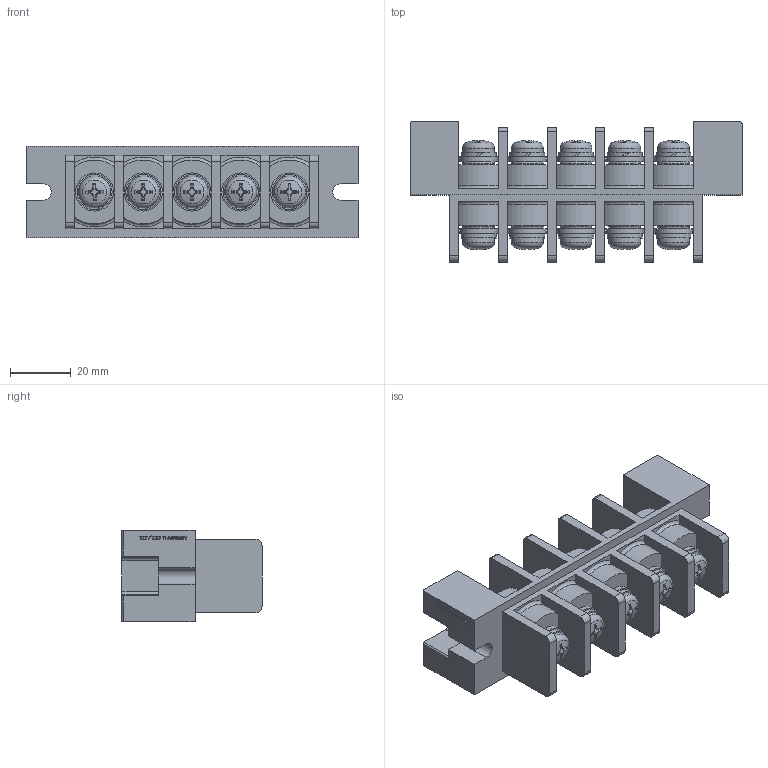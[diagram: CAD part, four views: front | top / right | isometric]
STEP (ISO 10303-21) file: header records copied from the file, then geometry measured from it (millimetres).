
FILE_DESCRIPTION(/* description */ ('Alibre Inc.'),/* implementation_level */ '2;1');
FILE_NAME(/* name */ 'export0',/* time_stamp */ '2016-01-14T19:21:13+09:00',/* author */ (''),/* organization */ (''),/* preprocessor_version */ 'ST-DEVELOPER v14',/* originating_system */ 'Alibre',/* authorisation */ '');
FILE_SCHEMA (('CONFIG_CONTROL_DESIGN'));
Length unit declared in the file: centimetre
Products named in the file (1): ID_1
Bounding box: 109 x 46 x 30 mm (x, y, z)
Volume: 69483.3 mm3; surface area: 29414.3 mm2
Topology: 1 solids, 16 shells, 759 faces, 1949 edges, 1285 vertices
Faces by surface type: plane 446, cylinder 151, cone 70, bspline 52, torus 30, sphere 10
Full cylindrical faces by diameter (mm): 4.55 x2, 6 x15, 10.5 x20, 10.75 x10, 12.5 x10
Entity records: 22927 total; most frequent: CARTESIAN_POINT 5818, ORIENTED_EDGE 3642, DIRECTION 2969, EDGE_CURVE 1821, VERTEX_POINT 1254, AXIS2_PLACEMENT_3D 1195, VECTOR 1019, LINE 1019
